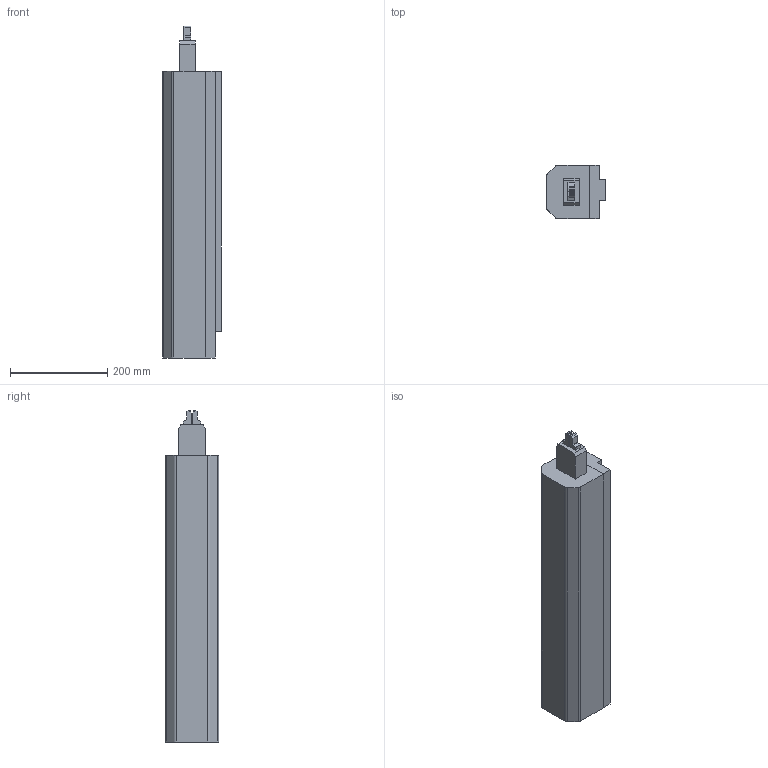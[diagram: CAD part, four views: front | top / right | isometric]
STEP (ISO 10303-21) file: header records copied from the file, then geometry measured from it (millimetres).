
FILE_DESCRIPTION(('STEP AP214'),'2;1');
FILE_NAME('Open CASCADE Shape Model','2024-10-02T15:55:42',(''),(''), 'Open CASCADE STEP processor 7.6','SolidWorks 2023','Unknown');
FILE_SCHEMA(('AUTOMOTIVE_DESIGN_CC2 { 1 2 10303 214 -1 1 5 4 }'));
Length unit declared in the file: millimetre
Products named in the file (3): Kopie von 00210860-_-921^79_05_V06; SOLID
Assembly tree (2 placements, depth 2):
  Kopie von 00210860-_-921^79_05_V06
    SOLID
    SOLID
Bounding box: 121 x 110 x 683.5 mm (x, y, z)
Volume: 7204853.8 mm3; surface area: 424365.1 mm2
Topology: 2 solids, 2 shells, 61 faces, 162 edges, 108 vertices
Faces by surface type: plane 53, cylinder 8
Entity records: 2109 total; most frequent: CARTESIAN_POINT 334, ORIENTED_EDGE 324, DIRECTION 306, EDGE_CURVE 162, LINE 146, VECTOR 146, VERTEX_POINT 108, AXIS2_PLACEMENT_3D 80
